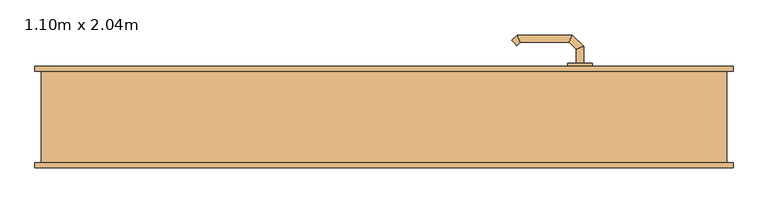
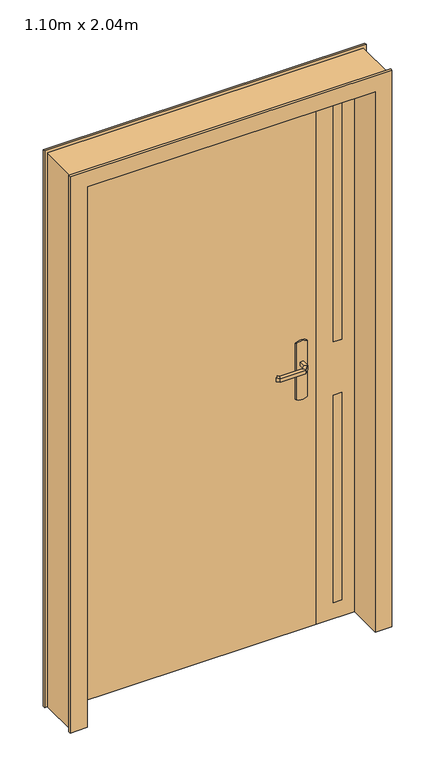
"""IFC4 building model written with IfcOpenShell, lengths in millimetres: door geometry, Tierce  160 : 1.10m x 2.04m."""

import ifcopenshell
import ifcopenshell.guid

model = None  # the IFC model being written
_history = None  # IfcOwnerHistory: only IFC2X3 demands one
_inside = {}  # id of a spatial element -> (the spatial element, [elements in it])
_under = {}  # id of a project, library or spatial element -> (it, [spatial elements below it])
_declared = {}  # id of a project -> (the project, [libraries it declares])
_typed = {}  # id of a type object -> (the type object, [elements of that type])
_made_of = {}  # id of a material, layer set ... -> (it, [elements and type objects made of it])


def new_model(schema):
    """Start an empty IFC model of exactly this schema.

    Asked for "IFC4X3", IfcOpenShell would pick the latest addendum, in which some entities
    have other attributes; the version numbers below select the first issue.
    IFC2X3 requires an IfcOwnerHistory on every rooted entity: one is made here for all.
    """
    global model, _history
    if schema == "IFC4X3":
        model = ifcopenshell.file(schema_version=(4, 3, 0, 0))
    else:
        model = ifcopenshell.file(schema=schema)
    _inside.clear()
    _under.clear()
    _declared.clear()
    _typed.clear()
    _made_of.clear()
    _history = None
    if model.schema == "IFC2X3":
        org = make("IfcOrganization", Name="unknown")
        user = make(
            "IfcPersonAndOrganization",
            ThePerson=make("IfcPerson", FamilyName="unknown"),
            TheOrganization=org,
        )
        app = make(
            "IfcApplication",
            ApplicationDeveloper=org,
            Version="unknown",
            ApplicationFullName="unknown",
            ApplicationIdentifier="unknown",
        )
        _history = make(
            "IfcOwnerHistory",
            OwningUser=user,
            OwningApplication=app,
            ChangeAction="ADDED",
            CreationDate=0,
        )
    return model


def make(cls, **values):
    """One entity of the class cls with the attributes given. An attribute that is None is left unset."""
    return model.create_entity(
        cls, **{name: value for name, value in values.items() if value is not None}
    )


def rooted(cls, **values):
    """An entity with a GlobalId (a new one), such as an element, a storey or a relation."""
    return make(cls, GlobalId=ifcopenshell.guid.new(), OwnerHistory=_history, **values)


def si_unit(unit_type, name, prefix=None):
    """IfcSIUnit, for example si_unit("LENGTHUNIT", "METRE", prefix="MILLI")."""
    return make("IfcSIUnit", UnitType=unit_type, Prefix=prefix, Name=name)


def assignment(units):
    """IfcUnitAssignment: the units of a project."""
    return None if units is None else make("IfcUnitAssignment", Units=units)


def point(xyz):
    """IfcCartesianPoint."""
    return None if xyz is None else make("IfcCartesianPoint", Coordinates=xyz)


def direction(xyz):
    """IfcDirection."""
    return None if xyz is None else make("IfcDirection", DirectionRatios=xyz)


def frame(location, z_axis=None, x_axis=None):
    """IfcAxis2Placement3D, a coordinate frame: its origin and axes. An axis left out is left unset."""
    return make(
        "IfcAxis2Placement3D",
        Location=point(location),
        Axis=direction(z_axis),
        RefDirection=direction(x_axis),
    )


def frame_2d(location, x_axis=None):
    """IfcAxis2Placement2D, a coordinate frame in the plane: its origin and x axis."""
    return make(
        "IfcAxis2Placement2D", Location=point(location), RefDirection=direction(x_axis)
    )


def origin():
    """The frame at (0, 0, 0) with its axes left unset."""
    return frame((0.0, 0.0, 0.0))


def origin_with_axes():
    """The frame at (0, 0, 0) with the z axis (0, 0, 1) and the x axis (1, 0, 0) written out."""
    return frame((0.0, 0.0, 0.0), z_axis=(0.0, 0.0, 1.0), x_axis=(1.0, 0.0, 0.0))


def place(relative_to, where):
    """IfcLocalPlacement: puts the frame where relative to a parent placement (None: the world)."""
    return make(
        "IfcLocalPlacement", PlacementRelTo=relative_to, RelativePlacement=where
    )


def context(
    kind, dimensions, precision=None, world=None, true_north=None, identifier=None
):
    """IfcGeometricRepresentationContext, for example the 3D "Model" context."""
    return make(
        "IfcGeometricRepresentationContext",
        ContextIdentifier=identifier,
        ContextType=kind,
        CoordinateSpaceDimension=dimensions,
        Precision=precision,
        WorldCoordinateSystem=world,
        TrueNorth=true_north,
    )


def project(units=None, contexts=None):
    """IfcProject with its units and contexts."""
    return rooted(
        "IfcProject",
        Name="project",
        RepresentationContexts=contexts,
        UnitsInContext=assignment(units),
    )


def spatial(cls, under=None, at=None, **own):
    """A site, building, storey or space (cls), placed at a placement, below another one or the project."""
    s = rooted(cls, ObjectPlacement=at, **own)
    if under is not None:
        _under.setdefault(under.id(), (under, []))[1].append(s)
    return s


def polyline(points):
    """IfcPolyline through the points."""
    return make("IfcPolyline", Points=[point(p) for p in points])


def circle_curve(where, radius):
    """IfcCircle in the frame where."""
    return make("IfcCircle", Position=where, Radius=radius)


def ellipse_curve(where, semi_axis1, semi_axis2):
    """IfcEllipse in the frame where."""
    return make(
        "IfcEllipse", Position=where, SemiAxis1=semi_axis1, SemiAxis2=semi_axis2
    )


def trimmed(basis, trim1, trim2, sense, master):
    """IfcTrimmedCurve: the piece of a basis curve between two trims."""
    return make(
        "IfcTrimmedCurve",
        BasisCurve=basis,
        Trim1=trim1,
        Trim2=trim2,
        SenseAgreement=sense,
        MasterRepresentation=master,
    )


def segment(curve, same_sense, transition):
    """IfcCompositeCurveSegment."""
    return make(
        "IfcCompositeCurveSegment",
        Transition=transition,
        SameSense=same_sense,
        ParentCurve=curve,
    )


def composite_curve(segments, self_intersect=None):
    """IfcCompositeCurve: segments joined end to end."""
    return make("IfcCompositeCurve", Segments=segments, SelfIntersect=self_intersect)


def outline(outer, holes=None, kind="AREA"):
    """IfcArbitraryClosedProfileDef: a profile drawn as a closed curve; with holes, ...WithVoids."""
    if holes is None:
        return make("IfcArbitraryClosedProfileDef", ProfileType=kind, OuterCurve=outer)
    return make(
        "IfcArbitraryProfileDefWithVoids",
        ProfileType=kind,
        OuterCurve=outer,
        InnerCurves=holes,
    )


def extrude(swept, where, along, depth):
    """IfcExtrudedAreaSolid: the profile swept, set in the frame where, extruded along a direction by depth."""
    return make(
        "IfcExtrudedAreaSolid",
        SweptArea=swept,
        Position=where,
        ExtrudedDirection=direction(along),
        Depth=depth,
    )


def faces_of(points, faces, orient=None, outer=None):
    """IfcFace entities. A face is a list of loops; a loop is a list of indices into points, from 0.

    orient and outer hold one flag for each loop. By default every Orientation is true, the
    first loop of a face is its IfcFaceOuterBound and the others are IfcFaceBound.
    """
    made = []
    for i, loops in enumerate(faces):
        bounds = []
        for j, loop in enumerate(loops):
            is_outer = j == 0 if outer is None else outer[i][j]
            bounds.append(
                make(
                    "IfcFaceOuterBound" if is_outer else "IfcFaceBound",
                    Bound=make("IfcPolyLoop", Polygon=[points[k] for k in loop]),
                    Orientation=True if orient is None else orient[i][j],
                )
            )
        made.append(make("IfcFace", Bounds=bounds))
    return made


def faceted_brep(points, faces, orient=None, outer=None, voids=None):
    """IfcFacetedBrep: a solid bounded by flat faces; with voids (closed shells), ...WithVoids."""
    shared = [point(p) for p in points]
    hull = make("IfcClosedShell", CfsFaces=faces_of(shared, faces, orient, outer))
    if voids is None:
        return make("IfcFacetedBrep", Outer=hull)
    return make(
        "IfcFacetedBrepWithVoids",
        Outer=hull,
        Voids=[
            make(cls, CfsFaces=faces_of(shared, fs, o, b)) for cls, fs, o, b in voids
        ],
    )


def shape(context_of_items, identifier, shape_type, items):
    """IfcShapeRepresentation: the items that make up one representation, for example the "Body"."""
    return make(
        "IfcShapeRepresentation",
        ContextOfItems=context_of_items,
        RepresentationIdentifier=identifier,
        RepresentationType=shape_type,
        Items=items,
    )


def source(mapping_origin, context_of_items, identifier, shape_type, items):
    """IfcRepresentationMap: a shape defined once, which mapped items show again and again."""
    return make(
        "IfcRepresentationMap",
        MappingOrigin=mapping_origin,
        MappedRepresentation=shape(context_of_items, identifier, shape_type, items),
    )


def transform(
    local_origin,
    x_axis=None,
    y_axis=None,
    z_axis=None,
    scale=None,
    scale2=None,
    scale3=None,
    uniform=True,
):
    """IfcCartesianTransformationOperator3D, or its non-uniform kind. x_axis, y_axis, z_axis: its Axis1, 2, 3."""
    if uniform:
        return make(
            "IfcCartesianTransformationOperator3D",
            Axis1=direction(x_axis),
            Axis2=direction(y_axis),
            LocalOrigin=point(local_origin),
            Scale=scale,
            Axis3=direction(z_axis),
        )
    return make(
        "IfcCartesianTransformationOperator3DnonUniform",
        Axis1=direction(x_axis),
        Axis2=direction(y_axis),
        LocalOrigin=point(local_origin),
        Scale=scale,
        Axis3=direction(z_axis),
        Scale2=scale2,
        Scale3=scale3,
    )


def mapped(mapping_source, mapping_target):
    """IfcMappedItem: shows the shape of a source again, moved by a transform."""
    return make(
        "IfcMappedItem", MappingSource=mapping_source, MappingTarget=mapping_target
    )


def made_of(thing, what):
    """Note that an element or type object is made of a material, layer set ...; save() writes the relation."""
    if what is not None:
        _made_of.setdefault(what.id(), (what, []))[1].append(thing)
    return thing


def element(
    cls,
    number,
    at=None,
    inside=None,
    cuts=None,
    type_object=None,
    material=None,
    context=None,
    identifier="Body",
    shape_type=None,
    held_by="IfcProductDefinitionShape",
    body=None,
    shapes=None,
    **own,
):
    """One element of the class cls, such as IfcWall. Its Tag is "e" and its number.

    at: its placement. inside: the storey or other place that contains it. cuts: it is an
    opening in that element (IfcRelVoidsElement). A single representation is given by context,
    identifier, shape_type and body (its items); several are given by shapes. held_by: the class
    of the entity that holds the representations. save() writes the other relations.
    """
    e = rooted(cls, Tag="e%d" % number, ObjectPlacement=at, **own)
    if body is not None:
        shapes = [shape(context, identifier, shape_type, body)]
    if shapes is not None:
        e.Representation = make(held_by, Representations=shapes)
    if inside is not None:
        _inside.setdefault(inside.id(), (inside, []))[1].append(e)
    if cuts is not None:
        rooted(
            "IfcRelVoidsElement", RelatingBuildingElement=cuts, RelatedOpeningElement=e
        )
    if type_object is not None:
        _typed.setdefault(type_object.id(), (type_object, []))[1].append(e)
    return made_of(e, material)


def aggregate(whole, parts):
    """IfcRelAggregates: a whole, such as a stair, and the parts it consists of."""
    return rooted("IfcRelAggregates", RelatingObject=whole, RelatedObjects=parts)


def save(model, path):
    """Write the relations noted so far, then the file.

    IfcRelAggregates (storeys below a building ...), IfcRelContainedInSpatialStructure (elements
    in a storey), IfcRelDefinesByType, IfcRelAssociatesMaterial and IfcRelDeclares: one each for
    every whole, place, type object, material and project.
    """
    for whole, parts in _under.values():
        aggregate(whole, parts)
    for where, things in _inside.values():
        rooted(
            "IfcRelContainedInSpatialStructure",
            RelatedElements=things,
            RelatingStructure=where,
        )
    for kind, things in _typed.values():
        rooted("IfcRelDefinesByType", RelatedObjects=things, RelatingType=kind)
    for what, things in _made_of.values():
        rooted("IfcRelAssociatesMaterial", RelatedObjects=things, RelatingMaterial=what)
    for by, libraries in _declared.values():
        rooted("IfcRelDeclares", RelatingContext=by, RelatedDefinitions=libraries)
    model.write(path)


def plane_surface(at):
    """IfcPlane: the flat surface through the origin of the frame at, square to its z axis."""
    return make("IfcPlane", Position=at)


def cylinder_surface(at, radius):
    """IfcCylindricalSurface: all points at the distance radius from the z axis of the frame at."""
    return make("IfcCylindricalSurface", Position=at, Radius=radius)


def advanced_brep(points, edges, surfaces, faces):
    """IfcAdvancedBrep: a solid bounded by faces that lie on surfaces and meet in shared edges.

    An edge is (start, end): straight between two places in points (the first is 0);
    or (start, end, curve); or (start, end, curve, False) where it runs against its curve.
    A face is (place in surfaces, loops), or (place, loops, False) where it looks against
    its surface's normal. A loop lists edges by number (the first is 1), with a minus sign
    where the edge is run from its end to its start. The first loop is the outer one.
    """
    corners = [point(p) for p in points]
    vertices = [make("IfcVertexPoint", VertexGeometry=c) for c in corners]
    made = []
    for start, end, *more in edges:
        made.append(
            make(
                "IfcEdgeCurve",
                EdgeStart=vertices[start],
                EdgeEnd=vertices[end],
                EdgeGeometry=more[0] if more else make("IfcPolyline", Points=[corners[start], corners[end]]),
                SameSense=more[1] if len(more) > 1 else True,
            )
        )
    hull = []
    for where, loops, *sense in faces:
        bounds = []
        for j, loop in enumerate(loops):
            ring = [make("IfcOrientedEdge", EdgeElement=made[abs(k) - 1], Orientation=k > 0) for k in loop]
            bounds.append(
                make(
                    "IfcFaceOuterBound" if j == 0 else "IfcFaceBound",
                    Bound=make("IfcEdgeLoop", EdgeList=ring),
                    Orientation=True,
                )
            )
        hull.append(make("IfcAdvancedFace", Bounds=bounds, FaceSurface=surfaces[where], SameSense=sense[0] if sense else True))
    return make("IfcAdvancedBrep", Outer=make("IfcClosedShell", CfsFaces=hull))


def door_1_10m_x_2_04m_b123601a(model_context):
    return source(origin(), model_context, "Body", "SolidModel", [
        advanced_brep(
        [(314.0, 38.0, 993.0), (314.0, 38.0, 1007.0), (326.0, 38.0, 1007.0), (326.0, 38.0, 993.0), (314.0, 15.5147955, 993.0), (314.0, 15.5147955, 1007.0), (326.0, 10.5442327, 1007.0), (326.0, 10.5442327, 993.0), (302.5147186, 4.0295141, 993.0), (302.5147186, 4.0295141, 1007.0), (307.4852814, -7.9704859, 1007.0), (307.4852814, -7.9704859, 993.0), (222.4394977, 4.0295141, 993.0), (222.4394977, 4.0295141, 1007.0), (217.468935, -7.9704859, 1007.0), (217.468935, -7.9704859, 993.0), (217.1257892, 9.3432226, 993.0), (208.6405078, 0.8579412, 993.0), (208.6405078, 0.8579412, 1007.0), (217.1257892, 9.3432226, 1007.0)],
        [
            (0, 1),
            (1, 2, circle_curve(frame((320.0, 38.0, 986.9542278), z_axis=(0.0, 1.0, 0.0), x_axis=(1.0, 0.0, 0.0)), 20.9244589)),
            (2, 3),
            (3, 0, circle_curve(frame((320.0, 38.0, 1013.0457722), z_axis=(0.0, 1.0, 0.0), x_axis=(1.0, 0.0, 0.0)), 20.9244589)),
            (0, 4),
            (4, 5),
            (5, 1),
            (5, 6, ellipse_curve(frame((320.0, 13.0295141, 986.9542278), z_axis=(0.38268343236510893, 0.9238795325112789, 0.0), x_axis=(-0.9238795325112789, 0.3826834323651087, 0.0)), 22.6484711, 20.9244589)),
            (6, 2),
            (6, 7),
            (7, 3),
            (7, 4, ellipse_curve(frame((320.0, 13.0295141, 1013.0457722), z_axis=(0.38268343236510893, 0.9238795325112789, 0.0), x_axis=(-0.9238795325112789, 0.3826834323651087, 0.0)), 22.6484711, 20.9244589)),
            (4, 8),
            (8, 9),
            (9, 5),
            (9, 10, ellipse_curve(frame((305.0, -1.9704859, 986.9542278), z_axis=(0.9238795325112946, 0.38268343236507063, 0.0), x_axis=(-0.3826834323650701, 0.9238795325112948, 0.0)), 22.6484711, 20.9244589)),
            (10, 6),
            (10, 11),
            (11, 7),
            (11, 8, ellipse_curve(frame((305.0, -1.9704859, 1013.0457722), z_axis=(0.9238795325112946, 0.38268343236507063, 0.0), x_axis=(-0.3826834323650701, 0.9238795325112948, 0.0)), 22.6484711, 20.9244589)),
            (8, 12),
            (12, 13),
            (13, 9),
            (13, 14, ellipse_curve(frame((219.9542163, -1.9704859, 986.9542278), z_axis=(0.9238795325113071, -0.38268343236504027, 0.0), x_axis=(0.38268343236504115, 0.9238795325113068, 0.0)), 22.6484711, 20.9244589)),
            (14, 10),
            (14, 15),
            (15, 11),
            (15, 12, ellipse_curve(frame((219.9542163, -1.9704859, 1013.0457722), z_axis=(0.9238795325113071, -0.38268343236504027, 0.0), x_axis=(0.38268343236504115, 0.9238795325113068, 0.0)), 22.6484711, 20.9244589)),
            (16, 17, circle_curve(frame((212.8831485, 5.1005819, 1013.0457722), z_axis=(-0.7071067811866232, 0.7071067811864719, 0.0), x_axis=(-0.7071067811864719, -0.7071067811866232, 0.0)), 20.9244589)),
            (17, 18),
            (18, 19, circle_curve(frame((212.8831485, 5.1005819, 986.9542278), z_axis=(-0.7071067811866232, 0.7071067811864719, 0.0), x_axis=(-0.7071067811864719, -0.7071067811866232, 0.0)), 20.9244589)),
            (19, 16),
            (12, 16),
            (19, 13),
            (18, 14),
            (17, 15),
        ],
        [
            plane_surface(frame((329.2195445, 38.0, 1000.0), z_axis=(0.0, 1.0, 0.0), x_axis=(0.0, 0.0, 1.0))),
            plane_surface(frame((314.0, 38.0, 993.0), z_axis=(-1.0, 0.0, 0.0), x_axis=(0.0, -1.0, 0.0))),
            cylinder_surface(frame((320.0, 38.0, 986.9542278), z_axis=(0.0, 1.0, 0.0), x_axis=(1.0, 0.0, 0.0)), 20.9244589),
            plane_surface(frame((326.0, 38.0, 1007.0), z_axis=(1.0, 0.0, 0.0), x_axis=(0.0, -1.0, 0.0))),
            cylinder_surface(frame((320.0, 38.0, 1013.0457722), z_axis=(0.0, 1.0, 0.0), x_axis=(1.0, 0.0, 0.0)), 20.9244589),
            plane_surface(frame((314.0, 15.5147955, 993.0), z_axis=(-0.707106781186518, 0.707106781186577, 0.0), x_axis=(-0.707106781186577, -0.707106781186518, 0.0))),
            cylinder_surface(frame((320.0, 13.0295141, 986.9542278), z_axis=(0.7071067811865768, 0.7071067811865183, 0.0), x_axis=(0.7071067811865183, -0.7071067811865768, 0.0)), 20.9244589),
            plane_surface(frame((326.0, 10.5442327, 1007.0), z_axis=(0.7071067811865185, -0.7071067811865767, 0.0), x_axis=(-0.7071067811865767, -0.7071067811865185, 0.0))),
            cylinder_surface(frame((320.0, 13.0295141, 1013.0457722), z_axis=(0.7071067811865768, 0.7071067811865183, 0.0), x_axis=(0.7071067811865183, -0.7071067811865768, 0.0)), 20.9244589),
            plane_surface(frame((302.5147186, 4.0295141, 993.0), z_axis=(0.0, 1.0, 0.0), x_axis=(-1.0, 0.0, 0.0))),
            cylinder_surface(frame((305.0, -1.9704859, 986.9542278), z_axis=(1.0, 0.0, 0.0), x_axis=(0.0, -1.0, 0.0)), 20.9244589),
            plane_surface(frame((307.4852814, -7.9704859, 1007.0), z_axis=(0.0, -1.0, 0.0), x_axis=(-1.0, 0.0, 0.0))),
            cylinder_surface(frame((305.0, -1.9704859, 1013.0457722), z_axis=(1.0, 0.0, 0.0), x_axis=(0.0, -1.0, 0.0)), 20.9244589),
            plane_surface(frame((212.8831485, 5.1005819, 990.7804555), z_axis=(-0.7071067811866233, 0.7071067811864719, 0.0), x_axis=(-0.7071067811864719, -0.7071067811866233, 0.0))),
            plane_surface(frame((222.4394977, 4.0295141, 993.0), z_axis=(0.707106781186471, 0.7071067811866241, 0.0), x_axis=(-0.7071067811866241, 0.707106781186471, 0.0))),
            cylinder_surface(frame((219.9542163, -1.9704859, 986.9542278), z_axis=(0.7071067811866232, -0.7071067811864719, 0.0), x_axis=(-0.7071067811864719, -0.7071067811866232, 0.0)), 20.9244589),
            plane_surface(frame((217.468935, -7.9704859, 1007.0), z_axis=(-0.7071067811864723, -0.7071067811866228, 0.0), x_axis=(-0.7071067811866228, 0.7071067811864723, 0.0))),
            cylinder_surface(frame((219.9542163, -1.9704859, 1013.0457722), z_axis=(0.7071067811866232, -0.7071067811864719, 0.0), x_axis=(-0.7071067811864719, -0.7071067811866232, 0.0)), 20.9244589),
        ],
        [
            (0, [[1, 2, 3, 4]]),
            (1, [[-1, 5, 6, 7]]),
            (2, [[-2, -7, 8, 9]]),
            (3, [[-3, -9, 10, 11]]),
            (4, [[-4, -11, 12, -5]]),
            (5, [[-6, 13, 14, 15]]),
            (6, [[-8, -15, 16, 17]]),
            (7, [[-10, -17, 18, 19]]),
            (8, [[-12, -19, 20, -13]]),
            (9, [[-14, 21, 22, 23]]),
            (10, [[-16, -23, 24, 25]]),
            (11, [[-18, -25, 26, 27]]),
            (12, [[-20, -27, 28, -21]]),
            (13, [[29, 30, 31, 32]]),
            (14, [[-22, 33, -32, 34]]),
            (15, [[-24, -34, -31, 35]]),
            (16, [[-26, -35, -30, 36]]),
            (17, [[-28, -36, -29, -33]]),
        ],
    ),
        advanced_brep(
        [(326.0, 88.0, 1007.0), (314.0, 88.0, 1007.0), (314.0, 88.0, 993.0), (326.0, 88.0, 993.0), (326.0, 115.6509507, 1007.0), (314.0, 110.680388, 1007.0), (314.0, 110.680388, 993.0), (326.0, 115.6509507, 993.0), (307.62279, 134.0281607, 1007.0), (302.6522273, 122.0281607, 1007.0), (302.6522273, 122.0281607, 993.0), (307.62279, 134.0281607, 993.0), (217.496078, 134.0281607, 1007.0), (222.4666408, 122.0281607, 1007.0), (222.4666408, 122.0281607, 993.0), (217.496078, 134.0281607, 993.0), (208.6676509, 125.1997336, 1007.0), (208.6676509, 125.1997336, 993.0), (217.1529323, 116.7144522, 993.0), (217.1529323, 116.7144522, 1007.0)],
        [
            (0, 1, circle_curve(frame((320.0, 88.0, 986.9542278), z_axis=(0.0, -1.0, 0.0), x_axis=(-1.0, 0.0, 0.0)), 20.9244589)),
            (1, 2),
            (2, 3, circle_curve(frame((320.0, 88.0, 1013.0457722), z_axis=(0.0, -1.0, 0.0), x_axis=(-1.0, 0.0, 0.0)), 20.9244589)),
            (3, 0),
            (0, 4),
            (4, 5, ellipse_curve(frame((320.0, 113.1656693, 986.9542278), z_axis=(0.3826834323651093, -0.9238795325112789, 0.0), x_axis=(-0.9238795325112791, -0.38268343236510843, 0.0)), 22.6484711, 20.9244589)),
            (5, 1),
            (5, 6),
            (6, 2),
            (6, 7, ellipse_curve(frame((320.0, 113.1656693, 1013.0457722), z_axis=(0.3826834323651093, -0.9238795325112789, 0.0), x_axis=(-0.9238795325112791, -0.38268343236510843, 0.0)), 22.6484711, 20.9244589)),
            (7, 3),
            (7, 4),
            (4, 8),
            (8, 9, ellipse_curve(frame((305.1375086, 128.0281607, 986.9542278), z_axis=(0.9238795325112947, -0.38268343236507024, 0.0), x_axis=(-0.3826834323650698, -0.9238795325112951, 0.0)), 22.6484711, 20.9244589)),
            (9, 5),
            (9, 10),
            (10, 6),
            (10, 11, ellipse_curve(frame((305.1375086, 128.0281607, 1013.0457722), z_axis=(0.9238795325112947, -0.38268343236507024, 0.0), x_axis=(-0.3826834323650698, -0.9238795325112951, 0.0)), 22.6484711, 20.9244589)),
            (11, 7),
            (11, 8),
            (8, 12),
            (12, 13, ellipse_curve(frame((219.9813594, 128.0281607, 986.9542278), z_axis=(0.9238795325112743, 0.3826834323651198, 0.0), x_axis=(0.38268343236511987, -0.9238795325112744, 0.0)), 22.6484711, 20.9244589)),
            (13, 9),
            (13, 14),
            (14, 10),
            (14, 15, ellipse_curve(frame((219.9813594, 128.0281607, 1013.0457722), z_axis=(0.9238795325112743, 0.3826834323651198, 0.0), x_axis=(0.38268343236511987, -0.9238795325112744, 0.0)), 22.6484711, 20.9244589)),
            (15, 11),
            (15, 12),
            (16, 17),
            (17, 18, circle_curve(frame((212.9102916, 120.9570929, 1013.0457722), z_axis=(-0.7071067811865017, -0.7071067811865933, 0.0), x_axis=(0.7071067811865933, -0.7071067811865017, 0.0)), 20.9244589)),
            (18, 19),
            (19, 16, circle_curve(frame((212.9102916, 120.9570929, 986.9542278), z_axis=(-0.7071067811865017, -0.7071067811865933, 0.0), x_axis=(0.7071067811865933, -0.7071067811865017, 0.0)), 20.9244589)),
            (12, 16),
            (19, 13),
            (18, 14),
            (17, 15),
        ],
        [
            plane_surface(frame((329.2195445, 88.0, 1000.0), z_axis=(0.0, -1.0, 0.0), x_axis=(0.0, 0.0, -1.0))),
            cylinder_surface(frame((320.0, 88.0, 986.9542278), z_axis=(0.0, -1.0, 0.0), x_axis=(-1.0, 0.0, 0.0)), 20.9244589),
            plane_surface(frame((314.0, 88.0, 1007.0), z_axis=(-1.0, 0.0, 0.0), x_axis=(0.0, 1.0, 0.0))),
            cylinder_surface(frame((320.0, 88.0, 1013.0457722), z_axis=(0.0, -1.0, 0.0), x_axis=(-1.0, 0.0, 0.0)), 20.9244589),
            plane_surface(frame((326.0, 88.0, 993.0), z_axis=(1.0, 0.0, 0.0), x_axis=(0.0, 1.0, 0.0))),
            cylinder_surface(frame((320.0, 113.1656693, 986.9542278), z_axis=(0.7071067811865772, -0.7071067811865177, 0.0), x_axis=(-0.7071067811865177, -0.7071067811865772, 0.0)), 20.9244589),
            plane_surface(frame((314.0, 110.680388, 1007.0), z_axis=(-0.7071067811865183, -0.7071067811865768, 0.0), x_axis=(-0.7071067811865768, 0.7071067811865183, 0.0))),
            cylinder_surface(frame((320.0, 113.1656693, 1013.0457722), z_axis=(0.7071067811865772, -0.7071067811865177, 0.0), x_axis=(-0.7071067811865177, -0.7071067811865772, 0.0)), 20.9244589),
            plane_surface(frame((326.0, 115.6509507, 993.0), z_axis=(0.707106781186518, 0.707106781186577, 0.0), x_axis=(-0.707106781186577, 0.707106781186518, 0.0))),
            cylinder_surface(frame((305.1375086, 128.0281607, 986.9542278), z_axis=(1.0, 0.0, 0.0), x_axis=(0.0, -1.0, 0.0)), 20.9244589),
            plane_surface(frame((302.6522273, 122.0281607, 1007.0), z_axis=(0.0, -1.0, 0.0), x_axis=(-1.0, 0.0, 0.0))),
            cylinder_surface(frame((305.1375086, 128.0281607, 1013.0457722), z_axis=(1.0, 0.0, 0.0), x_axis=(0.0, -1.0, 0.0)), 20.9244589),
            plane_surface(frame((307.62279, 134.0281607, 993.0), z_axis=(0.0, 1.0, 0.0), x_axis=(-1.0, 0.0, 0.0))),
            plane_surface(frame((212.9102916, 120.9570929, 1009.2195445), z_axis=(-0.7071067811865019, -0.7071067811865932, 0.0), x_axis=(-0.7071067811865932, 0.7071067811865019, 0.0))),
            cylinder_surface(frame((219.9813594, 128.0281607, 986.9542278), z_axis=(0.7071067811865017, 0.7071067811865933, 0.0), x_axis=(0.7071067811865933, -0.7071067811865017, 0.0)), 20.9244589),
            plane_surface(frame((222.4666408, 122.0281607, 1007.0), z_axis=(0.7071067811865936, -0.7071067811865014, 0.0), x_axis=(-0.7071067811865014, -0.7071067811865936, 0.0))),
            cylinder_surface(frame((219.9813594, 128.0281607, 1013.0457722), z_axis=(0.7071067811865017, 0.7071067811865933, 0.0), x_axis=(0.7071067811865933, -0.7071067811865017, 0.0)), 20.9244589),
            plane_surface(frame((217.496078, 134.0281607, 993.0), z_axis=(-0.707106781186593, 0.7071067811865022, 0.0), x_axis=(-0.7071067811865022, -0.707106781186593, 0.0))),
        ],
        [
            (0, [[1, 2, 3, 4]]),
            (1, [[-1, 5, 6, 7]]),
            (2, [[-2, -7, 8, 9]]),
            (3, [[-3, -9, 10, 11]]),
            (4, [[-4, -11, 12, -5]]),
            (5, [[-6, 13, 14, 15]]),
            (6, [[-8, -15, 16, 17]]),
            (7, [[-10, -17, 18, 19]]),
            (8, [[-12, -19, 20, -13]]),
            (9, [[-14, 21, 22, 23]]),
            (10, [[-16, -23, 24, 25]]),
            (11, [[-18, -25, 26, 27]]),
            (12, [[-20, -27, 28, -21]]),
            (13, [[29, 30, 31, 32]]),
            (14, [[-22, 33, -32, 34]]),
            (15, [[-24, -34, -31, 35]]),
            (16, [[-26, -35, -30, 36]]),
            (17, [[-28, -36, -29, -33]]),
        ],
    ),
        extrude(outline(composite_curve([segment(polyline([(1080.0, 300.0), (870.0, 300.0)]), True, "CONTINUOUS"), segment(trimmed(circle_curve(frame_2d((904.6410162, 320.0)), 40.0), [point((870.0, 300.0))], [point((870.0, 340.0))], False, "CARTESIAN"), True, "CONTINUOUS"), segment(polyline([(870.0, 340.0), (1080.0, 340.0)]), True, "CONTINUOUS"), segment(trimmed(circle_curve(frame_2d((1045.3589838, 320.0)), 40.0), [point((1080.0, 340.0))], [point((1080.0, 300.0))], False, "CARTESIAN"), True, "CONTINUOUS")], self_intersect=False)), frame((0.0, 38.0, 0.0), z_axis=(0.0, 1.0, 0.0), x_axis=(0.0, 0.0, 1.0)), (0.0, 0.0, 1.0), 5.0),
        extrude(outline(composite_curve([segment(polyline([(870.0, 340.0), (1080.0, 340.0)]), True, "CONTINUOUS"), segment(trimmed(circle_curve(frame_2d((1045.3589838, 320.0)), 40.0), [point((1080.0, 340.0))], [point((1080.0, 300.0))], False, "CARTESIAN"), True, "CONTINUOUS"), segment(polyline([(1080.0, 300.0), (870.0, 300.0)]), True, "CONTINUOUS"), segment(trimmed(circle_curve(frame_2d((904.6410162, 320.0)), 40.0), [point((870.0, 300.0))], [point((870.0, 340.0))], False, "CARTESIAN"), True, "CONTINUOUS")], self_intersect=False)), frame((0.0, 83.0, 0.0), z_axis=(0.0, 1.0, 0.0), x_axis=(0.0, 0.0, 1.0)), (0.0, 0.0, 1.0), 5.0),
        faceted_brep([(-560.0, 75.0, 0.0), (-570.0, 75.0, 0.0), (-570.0, 83.0, 0.0), (-525.0, 83.0, 0.0), (-525.0, 43.0, 0.0), (-510.0, 43.0, 0.0), (-510.0, -83.0, 0.0), (-570.0, -83.0, 0.0), (-570.0, -75.0, 0.0), (-560.0, -75.0, 0.0), (-560.0, -75.0, 2075.0), (-560.0, 75.0, 2075.0), (-570.0, -75.0, 2085.0), (570.0, -75.0, 2085.0), (570.0, -75.0, 0.0), (560.0, -75.0, 0.0), (560.0, -75.0, 2075.0), (-570.0, -83.0, 2085.0), (-510.0, -83.0, 2025.0), (510.0, -83.0, 2025.0), (510.0, -83.0, 0.0), (570.0, -83.0, 0.0), (570.0, -83.0, 2085.0), (-510.0, 43.0, 2025.0), (-525.0, 43.0, 2040.0), (525.0, 43.0, 2040.0), (525.0, 43.0, 0.0), (510.0, 43.0, 0.0), (510.0, 43.0, 2025.0), (-525.0, 83.0, 2040.0), (-570.0, 83.0, 2085.0), (570.0, 83.0, 2085.0), (570.0, 83.0, 0.0), (525.0, 83.0, 0.0), (525.0, 83.0, 2040.0), (-570.0, 75.0, 2085.0), (560.0, 75.0, 2075.0), (560.0, 75.0, 0.0), (570.0, 75.0, 0.0), (570.0, 75.0, 2085.0)], [[[0, 1, 2, 3, 4, 5, 6, 7, 8, 9]], [[9, 10, 11, 0]], [[8, 12, 13, 14, 15, 16, 10, 9]], [[7, 17, 12, 8]], [[6, 18, 19, 20, 21, 22, 17, 7]], [[5, 23, 18, 6]], [[4, 24, 25, 26, 27, 28, 23, 5]], [[3, 29, 24, 4]], [[2, 30, 31, 32, 33, 34, 29, 3]], [[1, 35, 30, 2]], [[0, 11, 36, 37, 38, 39, 35, 1]], [[16, 15, 37, 36]], [[37, 15, 14, 21, 20, 27, 26, 33, 32, 38]], [[22, 21, 14, 13]], [[28, 27, 20, 19]], [[34, 33, 26, 25]], [[39, 38, 32, 31]], [[10, 16, 36, 11]], [[17, 22, 13, 12]], [[23, 28, 19, 18]], [[29, 34, 25, 24]], [[35, 39, 31, 30]]]),
        extrude(outline(polyline([(465.0, 83.0), (465.0, 43.0), (435.0, 43.0), (435.0, 83.0), (465.0, 83.0)])), frame((0.0, 0.0, 60.0), z_axis=(0.0, 0.0, 1.0), x_axis=(1.0, 0.0, 0.0)), (0.0, 0.0, 1.0), 777.5),
        extrude(outline(polyline([(465.0, 83.0), (465.0, 43.0), (435.0, 43.0), (435.0, 83.0), (465.0, 83.0)])), frame((0.0, 0.0, 1037.5), z_axis=(0.0, 0.0, 1.0), x_axis=(1.0, 0.0, 0.0)), (0.0, 0.0, 1.0), 942.5),
        extrude(outline(polyline([(2040.0, 525.0), (2040.0, 375.0), (0.0, 375.0), (0.0, 525.0), (2040.0, 525.0)]), holes=[polyline([(837.5, 435.0), (837.5, 465.0), (60.0, 465.0), (60.0, 435.0), (837.5, 435.0)]), polyline([(1037.5, 465.0), (1037.5, 435.0), (1980.0, 435.0), (1980.0, 465.0), (1037.5, 465.0)])]), frame((0.0, 43.0, 0.0), z_axis=(0.0, 1.0, 0.0), x_axis=(0.0, 0.0, 1.0)), (0.0, 0.0, 1.0), 40.0),
        extrude(outline(polyline([(375.0, 83.0), (375.0, 43.0), (-525.0, 43.0), (-525.0, 83.0), (375.0, 83.0)])), origin_with_axes(), (0.0, 0.0, 1.0), 2040.0),
    ])


if __name__ == "__main__":
    model = new_model("IFC4")
    model_context = context("Model", 3, world=origin())
    ifc_project = project(units=[si_unit("LENGTHUNIT", "METRE", prefix="MILLI")], contexts=[model_context])
    site = spatial("IfcSite", under=ifc_project)
    building = spatial("IfcBuilding", under=site)
    placement = place(None, origin())
    door_1_10m_x_2_04m_shape = door_1_10m_x_2_04m_b123601a(model_context)
    element("IfcDoor", 1, ObjectType="Tierce  160 : 1.10m x 2.04m", at=placement, inside=building, context=model_context, shape_type="MappedRepresentation", body=[
        mapped(door_1_10m_x_2_04m_shape, transform((0.0, 0.0, 0.0), x_axis=(1.0, 0.0, 0.0), y_axis=(0.0, 1.0, 0.0), z_axis=(0.0, 0.0, 1.0))),
    ])
    save(model, "model.ifc")
